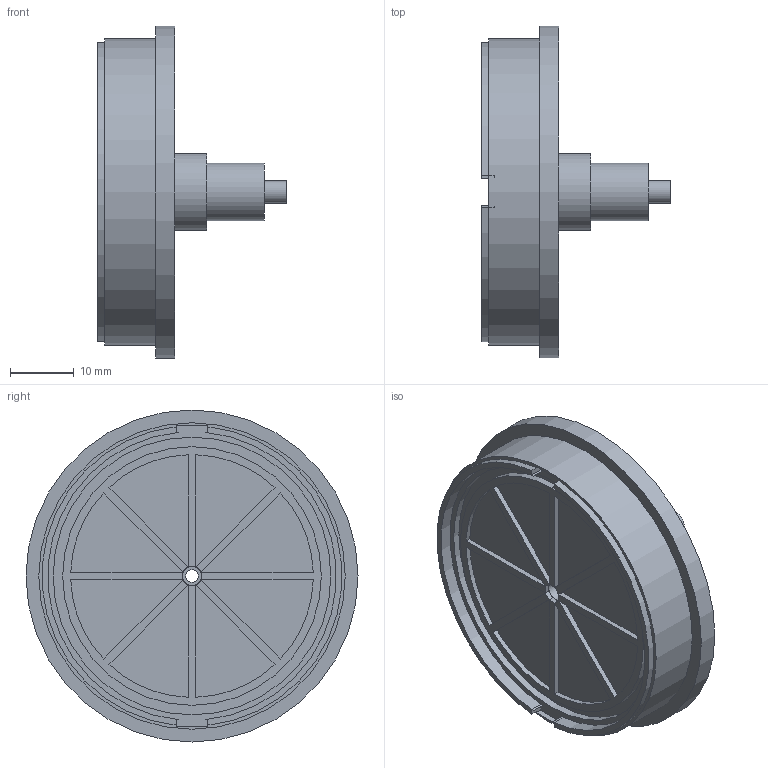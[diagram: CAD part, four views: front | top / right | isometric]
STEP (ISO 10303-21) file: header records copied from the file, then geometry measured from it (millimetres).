
FILE_DESCRIPTION(('Open CASCADE Model'),'2;1');
FILE_NAME('Open CASCADE Shape Model','2026-10-24T14:13:33',('Author'),( 'Open CASCADE'),'Open CASCADE STEP processor 7.9','Open CASCADE 7.9' ,'Unknown');
FILE_SCHEMA(('AUTOMOTIVE_DESIGN { 1 0 10303 214 1 1 1 1 }'));
Length unit declared in the file: millimetre
Products named in the file (1): Open CASCADE STEP translator 7.9 6
Bounding box: 29.6 x 52 x 52 mm (x, y, z)
Volume: 9250.8 mm3; surface area: 9004.4 mm2
Topology: 1 solids, 1 shells, 77 faces, 189 edges, 123 vertices
Faces by surface type: plane 55, cylinder 22
Full cylindrical faces by diameter (mm): 2 x1, 3 x1, 3.5 x1, 9 x1, 12 x1, 40.5 x1, 43.5 x1, 44 x1, 48 x1, 52 x1
Entity records: 4675 total; most frequent: CARTESIAN_POINT 880, DIRECTION 692, LINE 389, VECTOR 389, ORIENTED_EDGE 378, PCURVE 378, DEFINITIONAL_REPRESENTATION 378, EDGE_CURVE 189
